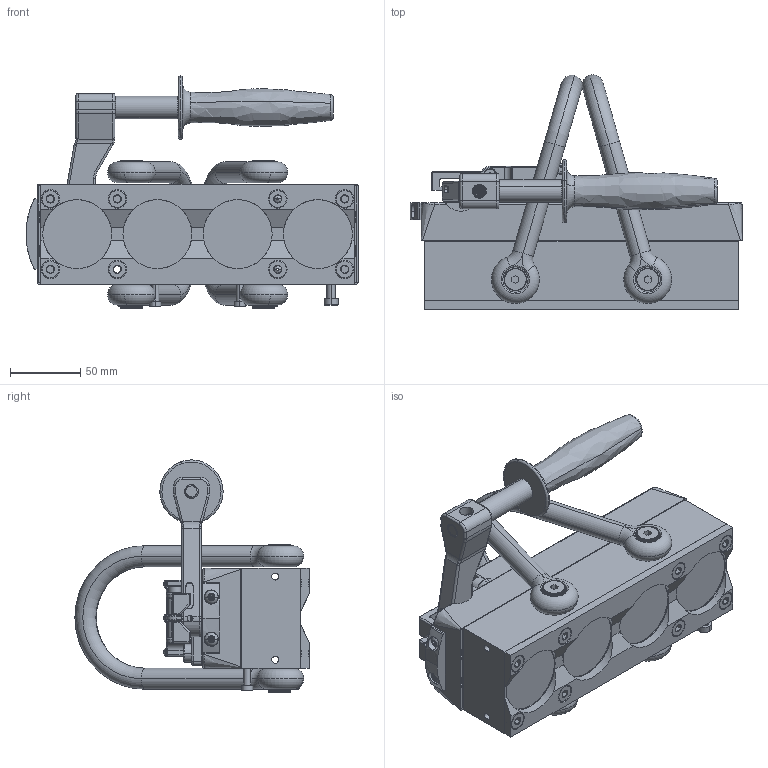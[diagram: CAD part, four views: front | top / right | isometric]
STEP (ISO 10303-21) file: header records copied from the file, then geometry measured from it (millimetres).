
FILE_DESCRIPTION (( 'STEP AP203' ), '1' );
FILE_NAME ('8000364_p.STEP', '2013-10-02T14:45:27', ( '' ), ( '' ), 'SwSTEP 2.0', 'SolidWorks 2010', '' );
FILE_SCHEMA (( 'CONFIG_CONTROL_DESIGN' ));
Products named in the file (1): 8000364_p
Bounding box: 235.88 x 166.45 x 164.98 mm (x, y, z)
Surface area: 210867.9 mm2 (no closed solid volume)
Topology: 0 solids, 182 shells, 1990 faces, 6999 edges, 5072 vertices
Faces by surface type: plane 999, cylinder 493, cone 259, torus 115, bspline 100, sphere 24
Entity records: 118618 total; most frequent: CARTESIAN_POINT 63142, DIRECTION 10723, ORIENTED_EDGE 10083, EDGE_CURVE 6978, VERTEX_POINT 5072, AXIS2_PLACEMENT_3D 3575, LINE 3573, VECTOR 3573
